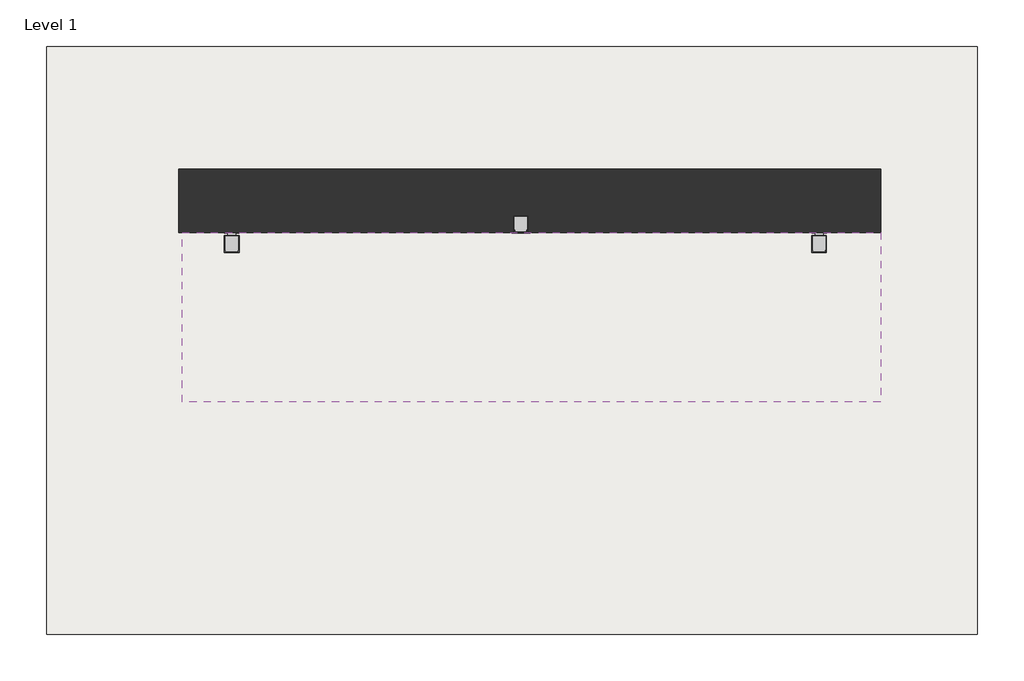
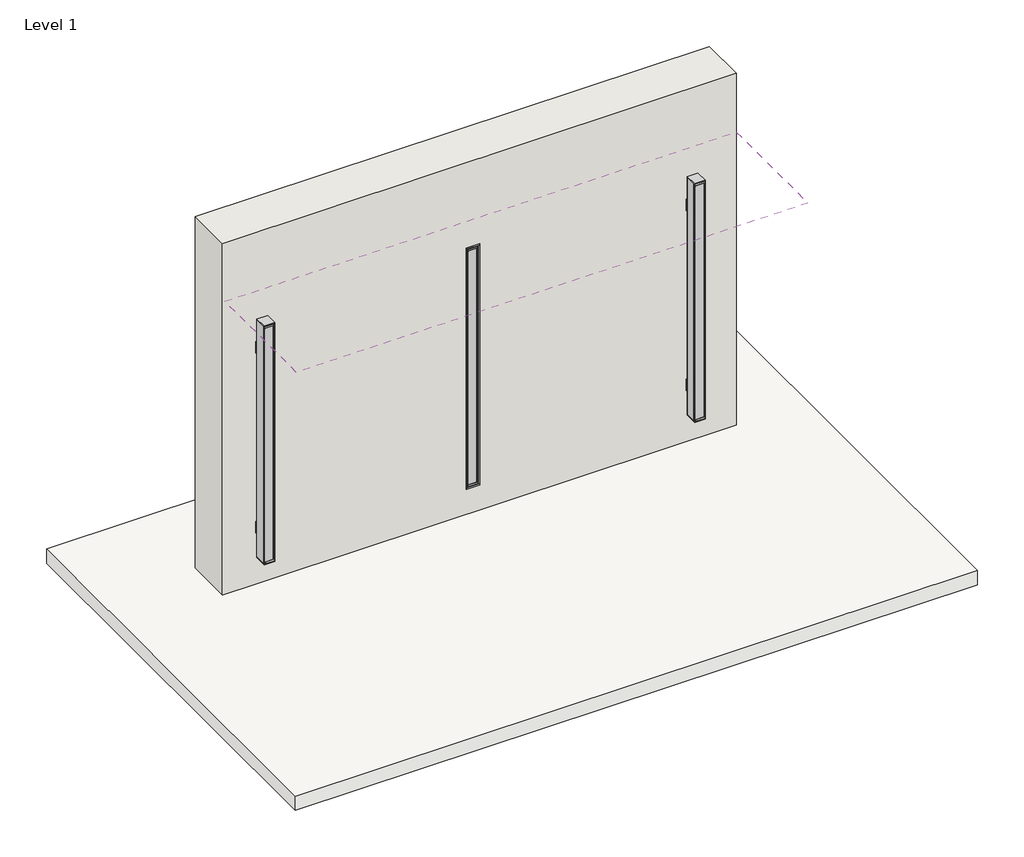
# One storey: 3 light fixtures, 1 covering, 1 slab, 1 wall.
"""IFC4 building model written with IfcOpenShell, lengths in millimetres."""

import ifcopenshell
import ifcopenshell.guid

model = None  # the IFC model being written
_history = None  # IfcOwnerHistory: only IFC2X3 demands one
_inside = {}  # id of a spatial element -> (the spatial element, [elements in it])
_under = {}  # id of a project, library or spatial element -> (it, [spatial elements below it])
_declared = {}  # id of a project -> (the project, [libraries it declares])
_typed = {}  # id of a type object -> (the type object, [elements of that type])
_made_of = {}  # id of a material, layer set ... -> (it, [elements and type objects made of it])


def new_model(schema):
    """Start an empty IFC model of exactly this schema.

    Asked for "IFC4X3", IfcOpenShell would pick the latest addendum, in which some entities
    have other attributes; the version numbers below select the first issue.
    IFC2X3 requires an IfcOwnerHistory on every rooted entity: one is made here for all.
    """
    global model, _history
    if schema == "IFC4X3":
        model = ifcopenshell.file(schema_version=(4, 3, 0, 0))
    else:
        model = ifcopenshell.file(schema=schema)
    _inside.clear()
    _under.clear()
    _declared.clear()
    _typed.clear()
    _made_of.clear()
    _history = None
    if model.schema == "IFC2X3":
        org = make("IfcOrganization", Name="unknown")
        user = make(
            "IfcPersonAndOrganization",
            ThePerson=make("IfcPerson", FamilyName="unknown"),
            TheOrganization=org,
        )
        app = make(
            "IfcApplication",
            ApplicationDeveloper=org,
            Version="unknown",
            ApplicationFullName="unknown",
            ApplicationIdentifier="unknown",
        )
        _history = make(
            "IfcOwnerHistory",
            OwningUser=user,
            OwningApplication=app,
            ChangeAction="ADDED",
            CreationDate=0,
        )
    return model


def make(cls, **values):
    """One entity of the class cls with the attributes given. An attribute that is None is left unset."""
    return model.create_entity(
        cls, **{name: value for name, value in values.items() if value is not None}
    )


def rooted(cls, **values):
    """An entity with a GlobalId (a new one), such as an element, a storey or a relation."""
    return make(cls, GlobalId=ifcopenshell.guid.new(), OwnerHistory=_history, **values)


def si_unit(unit_type, name, prefix=None):
    """IfcSIUnit, for example si_unit("LENGTHUNIT", "METRE", prefix="MILLI")."""
    return make("IfcSIUnit", UnitType=unit_type, Prefix=prefix, Name=name)


def assignment(units):
    """IfcUnitAssignment: the units of a project."""
    return None if units is None else make("IfcUnitAssignment", Units=units)


def point(xyz):
    """IfcCartesianPoint."""
    return None if xyz is None else make("IfcCartesianPoint", Coordinates=xyz)


def direction(xyz):
    """IfcDirection."""
    return None if xyz is None else make("IfcDirection", DirectionRatios=xyz)


def frame(location, z_axis=None, x_axis=None):
    """IfcAxis2Placement3D, a coordinate frame: its origin and axes. An axis left out is left unset."""
    return make(
        "IfcAxis2Placement3D",
        Location=point(location),
        Axis=direction(z_axis),
        RefDirection=direction(x_axis),
    )


def frame_2d(location, x_axis=None):
    """IfcAxis2Placement2D, a coordinate frame in the plane: its origin and x axis."""
    return make(
        "IfcAxis2Placement2D", Location=point(location), RefDirection=direction(x_axis)
    )


def origin():
    """The frame at (0, 0, 0) with its axes left unset."""
    return frame((0.0, 0.0, 0.0))


def place(relative_to, where):
    """IfcLocalPlacement: puts the frame where relative to a parent placement (None: the world)."""
    return make(
        "IfcLocalPlacement", PlacementRelTo=relative_to, RelativePlacement=where
    )


def context(
    kind, dimensions, precision=None, world=None, true_north=None, identifier=None
):
    """IfcGeometricRepresentationContext, for example the 3D "Model" context."""
    return make(
        "IfcGeometricRepresentationContext",
        ContextIdentifier=identifier,
        ContextType=kind,
        CoordinateSpaceDimension=dimensions,
        Precision=precision,
        WorldCoordinateSystem=world,
        TrueNorth=true_north,
    )


def project(units=None, contexts=None):
    """IfcProject with its units and contexts."""
    return rooted(
        "IfcProject",
        Name="project",
        RepresentationContexts=contexts,
        UnitsInContext=assignment(units),
    )


def spatial(cls, under=None, at=None, **own):
    """A site, building, storey or space (cls), placed at a placement, below another one or the project."""
    s = rooted(cls, ObjectPlacement=at, **own)
    if under is not None:
        _under.setdefault(under.id(), (under, []))[1].append(s)
    return s


def polyline(points):
    """IfcPolyline through the points."""
    return make("IfcPolyline", Points=[point(p) for p in points])


def circle_curve(where, radius):
    """IfcCircle in the frame where."""
    return make("IfcCircle", Position=where, Radius=radius)


def trimmed(basis, trim1, trim2, sense, master):
    """IfcTrimmedCurve: the piece of a basis curve between two trims."""
    return make(
        "IfcTrimmedCurve",
        BasisCurve=basis,
        Trim1=trim1,
        Trim2=trim2,
        SenseAgreement=sense,
        MasterRepresentation=master,
    )


def segment(curve, same_sense, transition):
    """IfcCompositeCurveSegment."""
    return make(
        "IfcCompositeCurveSegment",
        Transition=transition,
        SameSense=same_sense,
        ParentCurve=curve,
    )


def composite_curve(segments, self_intersect=None):
    """IfcCompositeCurve: segments joined end to end."""
    return make("IfcCompositeCurve", Segments=segments, SelfIntersect=self_intersect)


def outline(outer, holes=None, kind="AREA"):
    """IfcArbitraryClosedProfileDef: a profile drawn as a closed curve; with holes, ...WithVoids."""
    if holes is None:
        return make("IfcArbitraryClosedProfileDef", ProfileType=kind, OuterCurve=outer)
    return make(
        "IfcArbitraryProfileDefWithVoids",
        ProfileType=kind,
        OuterCurve=outer,
        InnerCurves=holes,
    )


def extrude(swept, where, along, depth):
    """IfcExtrudedAreaSolid: the profile swept, set in the frame where, extruded along a direction by depth."""
    return make(
        "IfcExtrudedAreaSolid",
        SweptArea=swept,
        Position=where,
        ExtrudedDirection=direction(along),
        Depth=depth,
    )


def faces_of(points, faces, orient=None, outer=None):
    """IfcFace entities. A face is a list of loops; a loop is a list of indices into points, from 0.

    orient and outer hold one flag for each loop. By default every Orientation is true, the
    first loop of a face is its IfcFaceOuterBound and the others are IfcFaceBound.
    """
    made = []
    for i, loops in enumerate(faces):
        bounds = []
        for j, loop in enumerate(loops):
            is_outer = j == 0 if outer is None else outer[i][j]
            bounds.append(
                make(
                    "IfcFaceOuterBound" if is_outer else "IfcFaceBound",
                    Bound=make("IfcPolyLoop", Polygon=[points[k] for k in loop]),
                    Orientation=True if orient is None else orient[i][j],
                )
            )
        made.append(make("IfcFace", Bounds=bounds))
    return made


def faceted_brep(points, faces, orient=None, outer=None, voids=None):
    """IfcFacetedBrep: a solid bounded by flat faces; with voids (closed shells), ...WithVoids."""
    shared = [point(p) for p in points]
    hull = make("IfcClosedShell", CfsFaces=faces_of(shared, faces, orient, outer))
    if voids is None:
        return make("IfcFacetedBrep", Outer=hull)
    return make(
        "IfcFacetedBrepWithVoids",
        Outer=hull,
        Voids=[
            make(cls, CfsFaces=faces_of(shared, fs, o, b)) for cls, fs, o, b in voids
        ],
    )


def shape(context_of_items, identifier, shape_type, items):
    """IfcShapeRepresentation: the items that make up one representation, for example the "Body"."""
    return make(
        "IfcShapeRepresentation",
        ContextOfItems=context_of_items,
        RepresentationIdentifier=identifier,
        RepresentationType=shape_type,
        Items=items,
    )


def source(mapping_origin, context_of_items, identifier, shape_type, items):
    """IfcRepresentationMap: a shape defined once, which mapped items show again and again."""
    return make(
        "IfcRepresentationMap",
        MappingOrigin=mapping_origin,
        MappedRepresentation=shape(context_of_items, identifier, shape_type, items),
    )


def transform(
    local_origin,
    x_axis=None,
    y_axis=None,
    z_axis=None,
    scale=None,
    scale2=None,
    scale3=None,
    uniform=True,
):
    """IfcCartesianTransformationOperator3D, or its non-uniform kind. x_axis, y_axis, z_axis: its Axis1, 2, 3."""
    if uniform:
        return make(
            "IfcCartesianTransformationOperator3D",
            Axis1=direction(x_axis),
            Axis2=direction(y_axis),
            LocalOrigin=point(local_origin),
            Scale=scale,
            Axis3=direction(z_axis),
        )
    return make(
        "IfcCartesianTransformationOperator3DnonUniform",
        Axis1=direction(x_axis),
        Axis2=direction(y_axis),
        LocalOrigin=point(local_origin),
        Scale=scale,
        Axis3=direction(z_axis),
        Scale2=scale2,
        Scale3=scale3,
    )


def mapped(mapping_source, mapping_target):
    """IfcMappedItem: shows the shape of a source again, moved by a transform."""
    return make(
        "IfcMappedItem", MappingSource=mapping_source, MappingTarget=mapping_target
    )


def made_of(thing, what):
    """Note that an element or type object is made of a material, layer set ...; save() writes the relation."""
    if what is not None:
        _made_of.setdefault(what.id(), (what, []))[1].append(thing)
    return thing


def element(
    cls,
    number,
    at=None,
    inside=None,
    cuts=None,
    type_object=None,
    material=None,
    context=None,
    identifier="Body",
    shape_type=None,
    held_by="IfcProductDefinitionShape",
    body=None,
    shapes=None,
    **own,
):
    """One element of the class cls, such as IfcWall. Its Tag is "e" and its number.

    at: its placement. inside: the storey or other place that contains it. cuts: it is an
    opening in that element (IfcRelVoidsElement). A single representation is given by context,
    identifier, shape_type and body (its items); several are given by shapes. held_by: the class
    of the entity that holds the representations. save() writes the other relations.
    """
    e = rooted(cls, Tag="e%d" % number, ObjectPlacement=at, **own)
    if body is not None:
        shapes = [shape(context, identifier, shape_type, body)]
    if shapes is not None:
        e.Representation = make(held_by, Representations=shapes)
    if inside is not None:
        _inside.setdefault(inside.id(), (inside, []))[1].append(e)
    if cuts is not None:
        rooted(
            "IfcRelVoidsElement", RelatingBuildingElement=cuts, RelatedOpeningElement=e
        )
    if type_object is not None:
        _typed.setdefault(type_object.id(), (type_object, []))[1].append(e)
    return made_of(e, material)


def aggregate(whole, parts):
    """IfcRelAggregates: a whole, such as a stair, and the parts it consists of."""
    return rooted("IfcRelAggregates", RelatingObject=whole, RelatedObjects=parts)


def save(model, path):
    """Write the relations noted so far, then the file.

    IfcRelAggregates (storeys below a building ...), IfcRelContainedInSpatialStructure (elements
    in a storey), IfcRelDefinesByType, IfcRelAssociatesMaterial and IfcRelDeclares: one each for
    every whole, place, type object, material and project.
    """
    for whole, parts in _under.values():
        aggregate(whole, parts)
    for where, things in _inside.values():
        rooted(
            "IfcRelContainedInSpatialStructure",
            RelatedElements=things,
            RelatingStructure=where,
        )
    for kind, things in _typed.values():
        rooted("IfcRelDefinesByType", RelatedObjects=things, RelatingType=kind)
    for what, things in _made_of.values():
        rooted("IfcRelAssociatesMaterial", RelatedObjects=things, RelatingMaterial=what)
    for by, libraries in _declared.values():
        rooted("IfcRelDeclares", RelatingContext=by, RelatedDefinitions=libraries)
    model.write(path)


def lighting_vertical_surface_axis_extend_4_53f30485(model_context):
    return source(origin(), model_context, "Body", "SweptSolid", [
        extrude(outline(polyline([(14.05509, 19.05), (70.87489, 19.05), (70.87489, 3.9878), (96.2749235, 3.9878), (96.2749235, 0.0), (-11.3449435, 0.0), (-11.3449435, 3.9878), (14.05509, 3.9878), (14.05509, 19.05)])), frame((881.9824767, 0.0, 0.0), z_axis=(1.0, 0.0, 0.0), x_axis=(0.0, 1.0, 0.0)), (0.0, 0.0, 1.0), 118.69928),
        extrude(outline(polyline([(14.05509, 19.05), (70.87489, 19.05), (70.87489, 3.9878), (96.2749235, 3.9878), (96.2749235, 0.0), (-11.3449435, 0.0), (-11.3449435, 3.9878), (14.05509, 3.9878), (14.05509, 19.05)])), frame((-989.4895233, 0.0, 0.0), z_axis=(1.0, 0.0, 0.0), x_axis=(0.0, 1.0, 0.0)), (0.0, 0.0, 1.0), 118.69928),
        extrude(outline(polyline([(142.7257861, -1210.2764833), (143.8275, -1211.201027), (143.8275, -1228.5898833), (139.2432981, -1228.5898833), (139.2432981, -1217.9218833), (142.0495, -1217.9218833), (142.0495, -1211.0702333), (141.25575, -1211.0702333), (141.25575, -1210.2764833), (142.7257861, -1210.2764833)])), frame((0.0, -8.28802, 0.0), z_axis=(0.0, 1.0, 0.0), x_axis=(0.0, 0.0, 1.0)), (0.0, 0.0, 1.0), 101.50602),
        extrude(outline(polyline([(-1228.5898833, 95.25), (-1228.5898833, -10.32002), (-1234.9398833, -10.32002), (-1234.9398833, 95.25), (-1228.5898833, 95.25)])), frame((0.0, 0.0, 19.05), z_axis=(0.0, 0.0, 1.0), x_axis=(1.0, 0.0, 0.0)), (0.0, 0.0, 1.0), 124.7775),
        extrude(outline(polyline([(142.7257861, 1221.4687167), (141.25575, 1221.4687167), (141.25575, 1222.2624667), (142.0495, 1222.2624667), (142.0495, 1229.1141167), (139.2432981, 1229.1141167), (139.2432981, 1239.7821167), (143.8275, 1239.7821167), (143.8275, 1222.3932605), (142.7257861, 1221.4687167)])), frame((0.0, -8.28802, 0.0), z_axis=(0.0, 1.0, 0.0), x_axis=(0.0, 0.0, 1.0)), (0.0, 0.0, 1.0), 101.50602),
        extrude(outline(polyline([(1239.7821167, -10.32002), (1239.7821167, 95.25), (1246.1321167, 95.25), (1246.1321167, -10.32002), (1239.7821167, -10.32002)])), frame((0.0, 0.0, 19.05), z_axis=(0.0, 0.0, 1.0), x_axis=(1.0, 0.0, 0.0)), (0.0, 0.0, 1.0), 124.7775),
        extrude(outline(composite_curve([segment(polyline([(87.4187262, 139.0954791), (-2.4887462, 139.0954791), (-2.8274381, 132.6328537)]), True, "CONTINUOUS"), segment(trimmed(circle_curve(frame_2d((-5.57022, 129.63398)), 4.064), [point((-2.8274381, 132.6328537))], [point((-3.6979014, 126.0269703))], False, "CARTESIAN"), True, "CONTINUOUS"), segment(trimmed(circle_curve(frame_2d((-0.465364, 126.8158257)), 3.3274001), [point((-3.6979014, 126.0269703))], [point((-2.8826156, 124.5292375))], True, "CARTESIAN"), True, "CONTINUOUS"), segment(trimmed(circle_curve(frame_2d((4.5536623, 131.5635508)), 10.2362001), [point((-2.8826156, 124.5292375))], [point((-1.5279266, 123.3298355))], True, "CARTESIAN"), True, "CONTINUOUS"), segment(trimmed(circle_curve(frame_2d((-2.0183773, 122.6658262)), 0.8255), [point((-1.5279266, 123.3298355))], [point((-2.508828, 122.0018169))], False, "CARTESIAN"), True, "CONTINUOUS"), segment(trimmed(circle_curve(frame_2d((4.5536631, 131.5635517)), 11.8872013), [point((-2.508828, 122.0018169))], [point((-4.0820152, 123.3946708))], False, "CARTESIAN"), True, "CONTINUOUS"), segment(trimmed(circle_curve(frame_2d((-0.465364, 126.8158257)), 4.9784001), [point((-4.0820152, 123.3946708))], [point((-5.4269007, 127.22524))], False, "CARTESIAN"), True, "CONTINUOUS"), segment(trimmed(circle_curve(frame_2d((-5.57022, 129.63398)), 2.413), [point((-5.4269007, 127.22524))], [point((-3.7914141, 131.2644458))], True, "CARTESIAN"), True, "CONTINUOUS"), segment(trimmed(circle_curve(frame_2d((-1.9189869, 132.9807256)), 2.54), [point((-3.7914141, 131.2644458))], [point((-4.4555059, 133.1136589))], False, "CARTESIAN"), True, "CONTINUOUS"), segment(polyline([(-4.4555059, 133.1136589), (-4.142012, 139.0954791), (-7.14502, 139.0954791), (-7.14502, 141.00048), (92.075, 141.00048), (92.075, 139.0954791), (89.071992, 139.0954791), (89.3854859, 133.1136589)]), True, "CONTINUOUS"), segment(trimmed(circle_curve(frame_2d((86.8489669, 132.9807256)), 2.54), [point((89.3854859, 133.1136589))], [point((88.7213941, 131.2644458))], False, "CARTESIAN"), True, "CONTINUOUS"), segment(trimmed(circle_curve(frame_2d((90.5002, 129.63398)), 2.413), [point((88.7213941, 131.2644458))], [point((90.3568807, 127.22524))], True, "CARTESIAN"), True, "CONTINUOUS"), segment(trimmed(circle_curve(frame_2d((85.395344, 126.8158257)), 4.9784001), [point((90.3568807, 127.22524))], [point((89.0119952, 123.3946708))], False, "CARTESIAN"), True, "CONTINUOUS"), segment(trimmed(circle_curve(frame_2d((80.3763169, 131.5635517)), 11.8872013), [point((89.0119952, 123.3946708))], [point((87.438808, 122.0018169))], False, "CARTESIAN"), True, "CONTINUOUS"), segment(trimmed(circle_curve(frame_2d((86.9483573, 122.6658262)), 0.8255), [point((87.438808, 122.0018169))], [point((86.4579066, 123.3298355))], False, "CARTESIAN"), True, "CONTINUOUS"), segment(trimmed(circle_curve(frame_2d((80.3763177, 131.5635508)), 10.2362001), [point((86.4579066, 123.3298355))], [point((87.8125956, 124.5292375))], True, "CARTESIAN"), True, "CONTINUOUS"), segment(trimmed(circle_curve(frame_2d((85.395344, 126.8158257)), 3.3274001), [point((87.8125956, 124.5292375))], [point((88.6278814, 126.0269703))], True, "CARTESIAN"), True, "CONTINUOUS"), segment(trimmed(circle_curve(frame_2d((90.5002, 129.63398)), 4.064), [point((88.6278814, 126.0269703))], [point((87.7574181, 132.6328537))], False, "CARTESIAN"), True, "CONTINUOUS"), segment(polyline([(87.7574181, 132.6328537), (87.4187262, 139.0954791)]), True, "CONTINUOUS")], self_intersect=False)), frame((-1213.6038833, 0.0, 0.0), z_axis=(1.0, 0.0, 0.0), x_axis=(0.0, 1.0, 0.0)), (0.0, 0.0, 1.0), 2438.4),
        extrude(outline(composite_curve([segment(polyline([(93.218, 128.9177), (91.3785797, 128.9177)]), True, "CONTINUOUS"), segment(trimmed(circle_curve(frame_2d((89.8722297, 128.9177)), 1.5063501), [point((91.3785797, 128.9177))], [point((89.1190546, 127.6131626))], False, "CARTESIAN"), True, "CONTINUOUS"), segment(trimmed(circle_curve(frame_2d((90.3102121, 129.6763079)), 2.382315), [point((89.1190546, 127.6131626))], [point((87.9356516, 129.8683682))], False, "CARTESIAN"), True, "CONTINUOUS"), segment(polyline([(87.9356516, 129.8683682), (91.313, 132.7023), (91.313, 130.9497), (93.218, 130.9497), (93.218, 137.4775), (91.313, 137.4775), (91.313, 135.9535), (89.662, 136.0400252), (89.662, 138.7475), (93.218, 138.7475), (93.218, 143.8275), (95.25, 143.8275), (95.25, 19.05), (-10.32002, 19.05), (-10.32002, 143.8275), (-8.28802, 143.8275), (-8.28802, 138.7475), (-4.73202, 138.7475), (-4.73202, 136.0400252), (-6.38302, 135.9535), (-6.38302, 137.4775), (-8.28802, 137.4775), (-8.28802, 130.9497), (-6.38302, 130.9497), (-6.38302, 132.7023), (-3.0056716, 129.8683682)]), True, "CONTINUOUS"), segment(trimmed(circle_curve(frame_2d((-5.3802321, 129.6763079)), 2.382315), [point((-3.0056716, 129.8683682))], [point((-4.1890746, 127.6131626))], False, "CARTESIAN"), True, "CONTINUOUS"), segment(trimmed(circle_curve(frame_2d((-4.9422497, 128.9177)), 1.5063501), [point((-4.1890746, 127.6131626))], [point((-6.4485997, 128.9177))], False, "CARTESIAN"), True, "CONTINUOUS"), segment(polyline([(-6.4485997, 128.9177), (-8.28802, 128.9177), (-8.28802, 21.082), (93.218, 21.082), (93.218, 128.9177)]), True, "CONTINUOUS")], self_intersect=False)), frame((-1228.5898833, 0.0, 0.0), z_axis=(1.0, 0.0, 0.0), x_axis=(0.0, 1.0, 0.0)), (0.0, 0.0, 1.0), 2468.372),
    ])


def lighting_recessed_axis_extend_4_7fae807d(model_context):
    return source(origin(), model_context, "Body", "SolidModel", [
        extrude(outline(polyline([(55.07101, -57.023), (59.735562, -57.023), (59.735562, -58.674), (52.78501, -58.674), (52.78501, 1.651), (66.37401, 1.651), (66.37401, 0.0), (55.07101, 0.0), (55.07101, -57.023)])), frame((-1240.536, 0.0, 0.0), z_axis=(1.0, 0.0, 0.0), x_axis=(0.0, 1.0, 0.0)), (0.0, 0.0, 1.0), 2481.072),
        extrude(outline(polyline([(-55.07101, -57.023), (-55.07101, 0.0), (-66.37401, 0.0), (-66.37401, 1.651), (-52.78501, 1.651), (-52.78501, -58.674), (-59.735562, -58.674), (-59.735562, -57.023), (-55.07101, -57.023)])), frame((-1240.536, 0.0, 0.0), z_axis=(1.0, 0.0, 0.0), x_axis=(0.0, 1.0, 0.0)), (0.0, 0.0, 1.0), 2481.072),
        faceted_brep([(1240.536, -52.78501, 0.0), (1240.536, -52.78501, -23.749), (1242.822, -52.78501, -23.749), (1242.822, -52.78501, 0.0), (1242.822, 52.78501, 0.0), (1242.822, 52.78501, -23.749), (1240.536, 52.78501, -23.749), (1240.536, 52.78501, 0.0), (1240.536, -66.37401, 0.0), (1240.536, -66.37401, 1.651), (1240.536, 66.37401, 1.651), (1240.536, 66.37401, 0.0), (1254.379, -66.37401, 0.0), (1254.379, -66.37401, 1.651), (1254.379, 66.37401, 1.651), (1254.379, 66.37401, 0.0)], [[[0, 1, 2, 3]], [[4, 5, 6, 7]], [[1, 0, 8, 9, 10, 11, 7, 6]], [[2, 1, 6, 5]], [[3, 2, 5, 4]], [[8, 12, 13, 9]], [[11, 10, 14, 15]], [[12, 8, 0, 3, 4, 7, 11, 15]], [[13, 12, 15, 14]], [[9, 13, 14, 10]]]),
        extrude(outline(polyline([(0.5492861, 1215.8726), (-0.92075, 1215.8726), (-0.92075, 1216.66635), (-0.127, 1216.66635), (-0.127, 1223.518), (-2.9332019, 1223.518), (-2.9332019, 1234.186), (1.651, 1234.186), (1.651, 1216.7971437), (0.5492861, 1215.8726)])), frame((0.0, -50.75301, 0.0), z_axis=(0.0, 1.0, 0.0), x_axis=(0.0, 0.0, 1.0)), (0.0, 0.0, 1.0), 101.50602),
        extrude(outline(polyline([(1234.186, -52.78501), (1234.186, 52.78501), (1240.536, 52.78501), (1240.536, -52.78501), (1234.186, -52.78501)])), frame((0.0, 0.0, -123.1265), z_axis=(0.0, 0.0, 1.0), x_axis=(1.0, 0.0, 0.0)), (0.0, 0.0, 1.0), 124.7775),
        faceted_brep([(-1242.822, -52.78501, 0.0), (-1242.822, -52.78501, -23.749), (-1240.536, -52.78501, -23.749), (-1240.536, -52.78501, 0.0), (-1240.536, 52.78501, 0.0), (-1240.536, 52.78501, -23.749), (-1242.822, 52.78501, -23.749), (-1242.822, 52.78501, 0.0), (-1240.536, 66.37401, 0.0), (-1240.536, 66.37401, 1.651), (-1240.536, -66.37401, 1.651), (-1240.536, -66.37401, 0.0), (-1254.379, -66.37401, 0.0), (-1254.379, -66.37401, 1.651), (-1254.379, 66.37401, 0.0), (-1254.379, 66.37401, 1.651)], [[[0, 1, 2, 3]], [[4, 5, 6, 7]], [[1, 0, 7, 6]], [[2, 1, 6, 5]], [[3, 2, 5, 4, 8, 9, 10, 11]], [[12, 11, 10, 13]], [[14, 15, 9, 8]], [[13, 10, 9, 15]], [[12, 13, 15, 14]], [[11, 12, 14, 8, 4, 7, 0, 3]]]),
        extrude(outline(polyline([(0.5492861, -1215.8726), (1.651, -1216.7971437), (1.651, -1234.186), (-2.9332019, -1234.186), (-2.9332019, -1223.518), (-0.127, -1223.518), (-0.127, -1216.66635), (-0.92075, -1216.66635), (-0.92075, -1215.8726), (0.5492861, -1215.8726)])), frame((0.0, -50.75301, 0.0), z_axis=(0.0, 1.0, 0.0), x_axis=(0.0, 0.0, 1.0)), (0.0, 0.0, 1.0), 101.50602),
        extrude(outline(polyline([(-1234.186, 52.78501), (-1234.186, -52.78501), (-1240.536, -52.78501), (-1240.536, 52.78501), (-1234.186, 52.78501)])), frame((0.0, 0.0, -123.1265), z_axis=(0.0, 0.0, 1.0), x_axis=(1.0, 0.0, 0.0)), (0.0, 0.0, 1.0), 124.7775),
        extrude(outline(composite_curve([segment(polyline([(-44.9537362, -3.2385009), (-45.2924281, -9.7011263)]), True, "CONTINUOUS"), segment(trimmed(circle_curve(frame_2d((-48.03521, -12.7)), 4.064), [point((-45.2924281, -9.7011263))], [point((-46.1628914, -16.3070097))], False, "CARTESIAN"), True, "CONTINUOUS"), segment(trimmed(circle_curve(frame_2d((-42.930354, -15.5181543)), 3.3274001), [point((-46.1628914, -16.3070097))], [point((-45.3476056, -17.8047425))], True, "CARTESIAN"), True, "CONTINUOUS"), segment(trimmed(circle_curve(frame_2d((-37.9113277, -10.7704292)), 10.2362001), [point((-45.3476056, -17.8047425))], [point((-43.9929166, -19.0041445))], True, "CARTESIAN"), True, "CONTINUOUS"), segment(trimmed(circle_curve(frame_2d((-44.4833673, -19.6681538)), 0.8255), [point((-43.9929166, -19.0041445))], [point((-44.973818, -20.3321631))], False, "CARTESIAN"), True, "CONTINUOUS"), segment(trimmed(circle_curve(frame_2d((-37.9113269, -10.7704283)), 11.8872013), [point((-44.973818, -20.3321631))], [point((-46.5470052, -18.9393092))], False, "CARTESIAN"), True, "CONTINUOUS"), segment(trimmed(circle_curve(frame_2d((-42.930354, -15.5181543)), 4.9784001), [point((-46.5470052, -18.9393092))], [point((-47.8918907, -15.10874))], False, "CARTESIAN"), True, "CONTINUOUS"), segment(trimmed(circle_curve(frame_2d((-48.03521, -12.7)), 2.413), [point((-47.8918907, -15.10874))], [point((-46.2564041, -11.0695342))], True, "CARTESIAN"), True, "CONTINUOUS"), segment(trimmed(circle_curve(frame_2d((-44.3839769, -9.3532544)), 2.54), [point((-46.2564041, -11.0695342))], [point((-46.9204959, -9.2203211))], False, "CARTESIAN"), True, "CONTINUOUS"), segment(polyline([(-46.9204959, -9.2203211), (-46.607002, -3.2385009), (-49.61001, -3.2385009), (-49.61001, -1.3335), (49.61001, -1.3335), (49.61001, -3.2385009), (46.607002, -3.2385009), (46.9204959, -9.2203211)]), True, "CONTINUOUS"), segment(trimmed(circle_curve(frame_2d((44.3839769, -9.3532544)), 2.54), [point((46.9204959, -9.2203211))], [point((46.2564041, -11.0695342))], False, "CARTESIAN"), True, "CONTINUOUS"), segment(trimmed(circle_curve(frame_2d((48.03521, -12.7)), 2.413), [point((46.2564041, -11.0695342))], [point((47.8918907, -15.10874))], True, "CARTESIAN"), True, "CONTINUOUS"), segment(trimmed(circle_curve(frame_2d((42.930354, -15.5181543)), 4.9784001), [point((47.8918907, -15.10874))], [point((46.5470052, -18.9393092))], False, "CARTESIAN"), True, "CONTINUOUS"), segment(trimmed(circle_curve(frame_2d((37.9113269, -10.7704283)), 11.8872013), [point((46.5470052, -18.9393092))], [point((44.973818, -20.3321631))], False, "CARTESIAN"), True, "CONTINUOUS"), segment(trimmed(circle_curve(frame_2d((44.4833673, -19.6681538)), 0.8255), [point((44.973818, -20.3321631))], [point((43.9929166, -19.0041445))], False, "CARTESIAN"), True, "CONTINUOUS"), segment(trimmed(circle_curve(frame_2d((37.9113277, -10.7704292)), 10.2362001), [point((43.9929166, -19.0041445))], [point((45.3476056, -17.8047425))], True, "CARTESIAN"), True, "CONTINUOUS"), segment(trimmed(circle_curve(frame_2d((42.930354, -15.5181543)), 3.3274001), [point((45.3476056, -17.8047425))], [point((46.1628914, -16.3070097))], True, "CARTESIAN"), True, "CONTINUOUS"), segment(trimmed(circle_curve(frame_2d((48.03521, -12.7)), 4.064), [point((46.1628914, -16.3070097))], [point((45.2924281, -9.7011263))], False, "CARTESIAN"), True, "CONTINUOUS"), segment(polyline([(45.2924281, -9.7011263), (44.9537362, -3.2385009), (-44.9537362, -3.2385009)]), True, "CONTINUOUS")], self_intersect=False)), frame((-1219.2, 0.0, 0.0), z_axis=(1.0, 0.0, 0.0), x_axis=(0.0, 1.0, 0.0)), (0.0, 0.0, 1.0), 2438.4),
        extrude(outline(composite_curve([segment(polyline([(-50.75301, -13.2588), (-50.75301, -121.0945), (50.75301, -121.0945), (50.75301, -13.2588), (48.9135897, -13.2588)]), True, "CONTINUOUS"), segment(trimmed(circle_curve(frame_2d((47.4072397, -13.2588)), 1.5063501), [point((48.9135897, -13.2588))], [point((46.6540646, -14.5633374))], False, "CARTESIAN"), True, "CONTINUOUS"), segment(trimmed(circle_curve(frame_2d((47.8452221, -12.5001921)), 2.382315), [point((46.6540646, -14.5633374))], [point((45.4706616, -12.3081318))], False, "CARTESIAN"), True, "CONTINUOUS"), segment(polyline([(45.4706616, -12.3081318), (48.84801, -9.4742), (48.84801, -11.2268), (50.75301, -11.2268), (50.75301, -4.699), (48.84801, -4.699), (48.84801, -6.223), (47.19701, -6.1364748), (47.19701, -3.429), (50.75301, -3.429), (50.75301, 1.651), (52.78501, 1.651), (52.78501, -123.1265), (-52.78501, -123.1265), (-52.78501, 1.651), (-50.75301, 1.651), (-50.75301, -3.429), (-47.19701, -3.429), (-47.19701, -6.1364748), (-48.84801, -6.223), (-48.84801, -4.699), (-50.75301, -4.699), (-50.75301, -11.2268), (-48.84801, -11.2268), (-48.84801, -9.4742), (-45.4706616, -12.3081318)]), True, "CONTINUOUS"), segment(trimmed(circle_curve(frame_2d((-47.8452221, -12.5001921)), 2.382315), [point((-45.4706616, -12.3081318))], [point((-46.6540646, -14.5633374))], False, "CARTESIAN"), True, "CONTINUOUS"), segment(trimmed(circle_curve(frame_2d((-47.4072397, -13.2588)), 1.5063501), [point((-46.6540646, -14.5633374))], [point((-48.9135897, -13.2588))], False, "CARTESIAN"), True, "CONTINUOUS"), segment(polyline([(-48.9135897, -13.2588), (-50.75301, -13.2588)]), True, "CONTINUOUS")], self_intersect=False)), frame((-1234.186, 0.0, 0.0), z_axis=(1.0, 0.0, 0.0), x_axis=(0.0, 1.0, 0.0)), (0.0, 0.0, 1.0), 2468.372),
    ])


model = new_model("IFC4")

# Units and contexts
model_context = context("Model", 3, world=origin())
ifc_project = project(units=[si_unit("LENGTHUNIT", "METRE", prefix="MILLI")], contexts=[model_context])

# Site, building, storey
site = spatial("IfcSite", under=ifc_project)
building = spatial("IfcBuilding", under=site)
storey = spatial("IfcBuildingStorey", under=building, Name="Level 1", Elevation=0.0)

# Covering
placement = place(None, origin())
element("IfcCovering", 1, ObjectType="Plain", at=placement, inside=storey, context=model_context, shape_type="SweptSolid", body=[
    extrude(outline(polyline([(1248.6428734, 5992.4697047), (1248.6428734, 4773.2697047), (-3780.5571266, 4773.2697047), (-3780.5571266, 5992.4697047), (1248.6428734, 5992.4697047)])), frame((0.0, 0.0, 3048.0), z_axis=(0.0, 0.0, 1.0), x_axis=(1.0, 0.0, 0.0)), (0.0, 0.0, 1.0), 12.7),
])

# Light fixtures
lighting_vertical_surface_axis_extend_4_shape = lighting_vertical_surface_axis_extend_4_53f30485(model_context)
element("IfcLightFixture", 2, ObjectType="Lighting -Vertical Surface-Axis-Extend_4 : EX4S-900-80-35-SO-4", at=placement, inside=storey, context=model_context, shape_type="MappedRepresentation", body=[
    mapped(lighting_vertical_surface_axis_extend_4_shape, transform((-3467.4221166, 5992.4697047, 1533.8565913), x_axis=(0.0, 0.0, -1.0), y_axis=(1.0, 0.0, 0.0), z_axis=(0.0, -1.0, 0.0))),
])
element("IfcLightFixture", 3, ObjectType="Lighting -Vertical Surface-Axis-Extend_4 : EX4S-900-80-35-SO-4", at=placement, inside=storey, context=model_context, shape_type="MappedRepresentation", body=[
    mapped(lighting_vertical_surface_axis_extend_4_shape, transform((764.0778834, 5992.4697047, 1533.8565913), x_axis=(0.0, 0.0, -1.0), y_axis=(1.0, 0.0, 0.0), z_axis=(0.0, -1.0, 0.0))),
])
lighting_recessed_axis_extend_4_shape = lighting_recessed_axis_extend_4_7fae807d(model_context)
element("IfcLightFixture", 4, ObjectType="Lighting-Recessed-Axis-Extend_4 : EX4R-900-80-35-SO-4", at=placement, inside=storey, context=model_context, shape_type="MappedRepresentation", body=[
    mapped(lighting_recessed_axis_extend_4_shape, transform((-1342.1571266, 5992.4697047, 1517.2013883), x_axis=(0.0, 0.0, -1.0), y_axis=(1.0, 0.0, 0.0), z_axis=(0.0, -1.0, 0.0))),
])

# Slab
element("IfcSlab", 5, ObjectType="Generic 150mm 2", at=placement, inside=storey, context=model_context, shape_type="SweptSolid", body=[
    extrude(outline(polyline([(1946.9865813, 7335.1647695), (1946.9865813, 3096.8697047), (-4758.6134187, 3096.8697047), (-4758.6134187, 7335.1647695), (1946.9865813, 7335.1647695)])), frame((0.0, 0.0, -150.01875), z_axis=(0.0, 0.0, 1.0), x_axis=(1.0, 0.0, 0.0)), (0.0, 0.0, 1.0), 150.01875),
])

# Wall
element("IfcWall", 6, ObjectType="Exterior - Block on Mtl. Stud 2", at=placement, inside=storey, context=model_context, shape_type="Brep", body=[
    faceted_brep([(-3805.9571266, 5992.4697047, 0.0), (1248.6428734, 5992.4697047, 0.0), (1248.6428734, 5992.4697047, 3657.6), (-3805.9571266, 5992.4697047, 3657.6), (-1287.0861166, 5992.4697047, 2760.0233883), (-1287.0861166, 5992.4697047, 274.3793883), (-1397.2281366, 5992.4697047, 274.3793883), (-1397.2281366, 5992.4697047, 2760.0233883), (1248.6428734, 6452.4697047, 0.0), (-3805.9571266, 6452.4697047, 0.0), (-3805.9571266, 6452.4697047, 3657.6), (1248.6428734, 6452.4697047, 3657.6), (-1287.0861166, 6115.5962047, 274.3793883), (-1287.0861166, 6115.5962047, 2760.0233883), (-1397.2281366, 6115.5962047, 2760.0233883), (-1397.2281366, 6115.5962047, 274.3793883)], [[[0, 1, 2, 3], [4, 5, 6, 7]], [[8, 9, 10, 11]], [[1, 0, 9, 8]], [[2, 1, 8, 11]], [[3, 2, 11, 10]], [[0, 3, 10, 9]], [[12, 13, 14, 15]], [[13, 12, 5, 4]], [[14, 13, 4, 7]], [[15, 14, 7, 6]], [[12, 15, 6, 5]]]),
])

save(model, "model.ifc")
